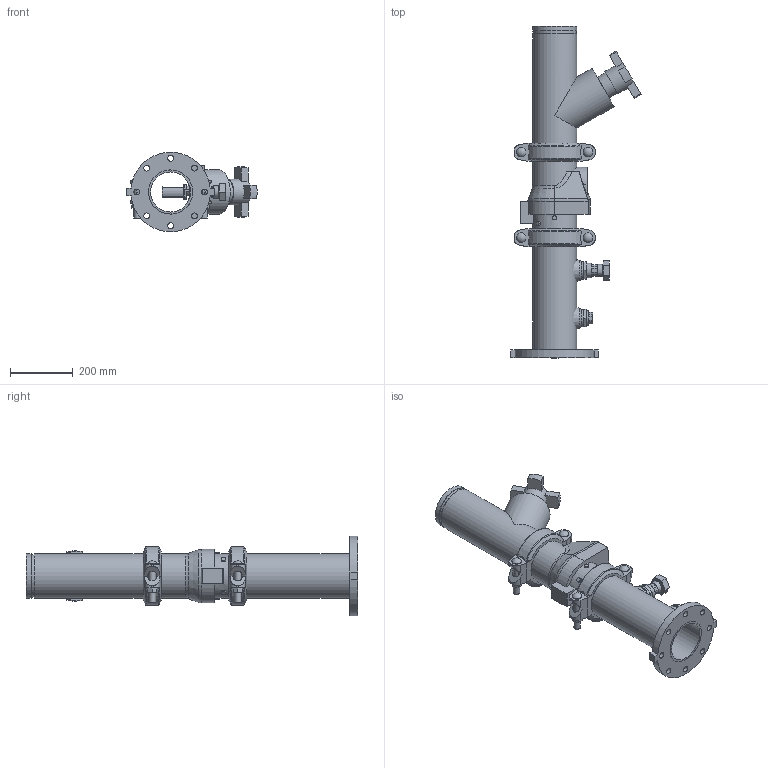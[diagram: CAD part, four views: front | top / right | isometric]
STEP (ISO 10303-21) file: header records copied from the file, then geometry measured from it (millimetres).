
FILE_DESCRIPTION(/* description */ ('VIC DVI PUMP DROP VERT S/383 (OGSxFLG) (S/924-1.25)','CAx-IF Rec.Pracs.---Representation and Presentation of Product Manufacturing Information (PMI)---4.0---2014-10-13'),/* implementation_level */ '2;1');
FILE_NAME(/* name */ 'C:\Users\Public\Documents\Victaulic.Temp\A849\Victaulic_IPS_Vertical DVI_CL 150_Series 383 (OGSxFLG)_924 (1.25)_05.0x05.0 (125x125).stp',/* time_stamp */ '2022-07-25T11:40:03+02:00',/* author */ ('Vjadhav'),/* organization */ ('Victaulic'),/* preprocessor_version */ 'ST-DEVELOPER v18',/* originating_system */ 'Autodesk Inventor 2020',/* authorisation */ '');
FILE_SCHEMA (('AP242_MANAGED_MODEL_BASED_3D_ENGINEERING_MIM_LF { 1 0 10303 442 1 1 4 }'));
Length unit declared in the file: inch
Products named in the file (8): 383_924 (1.25)-05.0x05.0; 741-05.0; Pipe-05.0; 177N-05.0; 789-05.0; 779-05.0; 924-04.0x01.25; 923-04.0x0.75
Assembly tree (8 placements, depth 2):
  383_924 (1.25)-05.0x05.0
    741-05.0
    Pipe-05.0
    177N-05.0  x2
    789-05.0
    779-05.0
    924-04.0x01.25
    923-04.0x0.75
Bounding box: 416.05 x 1060.45 x 253.05 mm (x, y, z)
Volume: 9681632.8 mm3; surface area: 1511537.6 mm2
Topology: 8 solids, 9 shells, 437 faces, 1162 edges, 779 vertices
Faces by surface type: plane 259, cylinder 145, torus 14, cone 13, sphere 4, bspline 2
Full cylindrical faces by diameter (mm): 13.716 x4, 19.05 x8, 21.209 x4, 21.336 x1, 26.67 x2, 30.48 x4, 38.608 x1, 42.164 x1, 45.974 x4, 48.514 x1, 55.626 x2, 75.26 x1, 82.55 x1, 128.194 x3, 128.6 x2, 137.033 x6, 141.3 x16
Entity records: 11967 total; most frequent: CARTESIAN_POINT 2443, DIRECTION 1951, ORIENTED_EDGE 1802, EDGE_CURVE 901, AXIS2_PLACEMENT_3D 733, VERTEX_POINT 607, LINE 485, VECTOR 485
